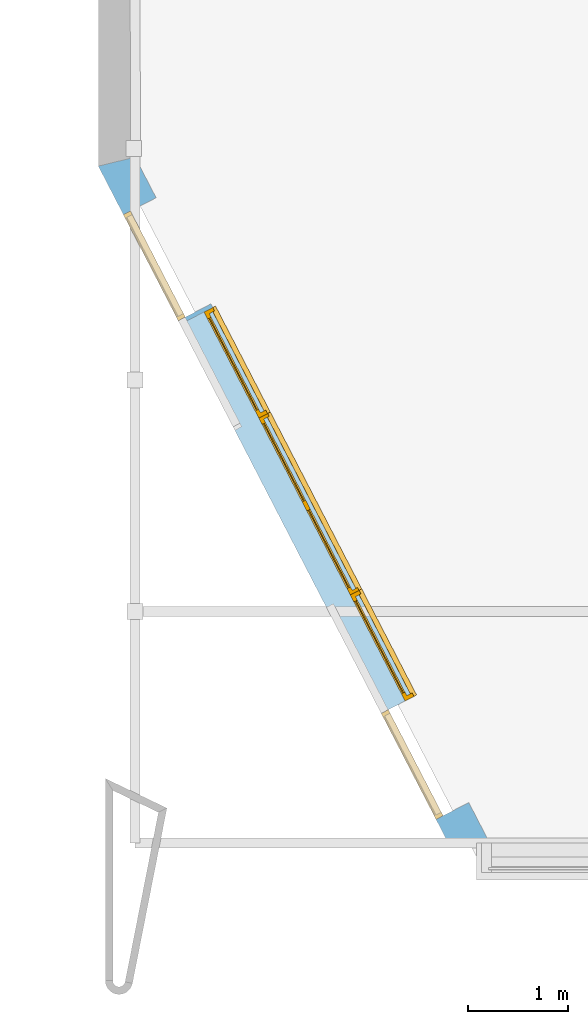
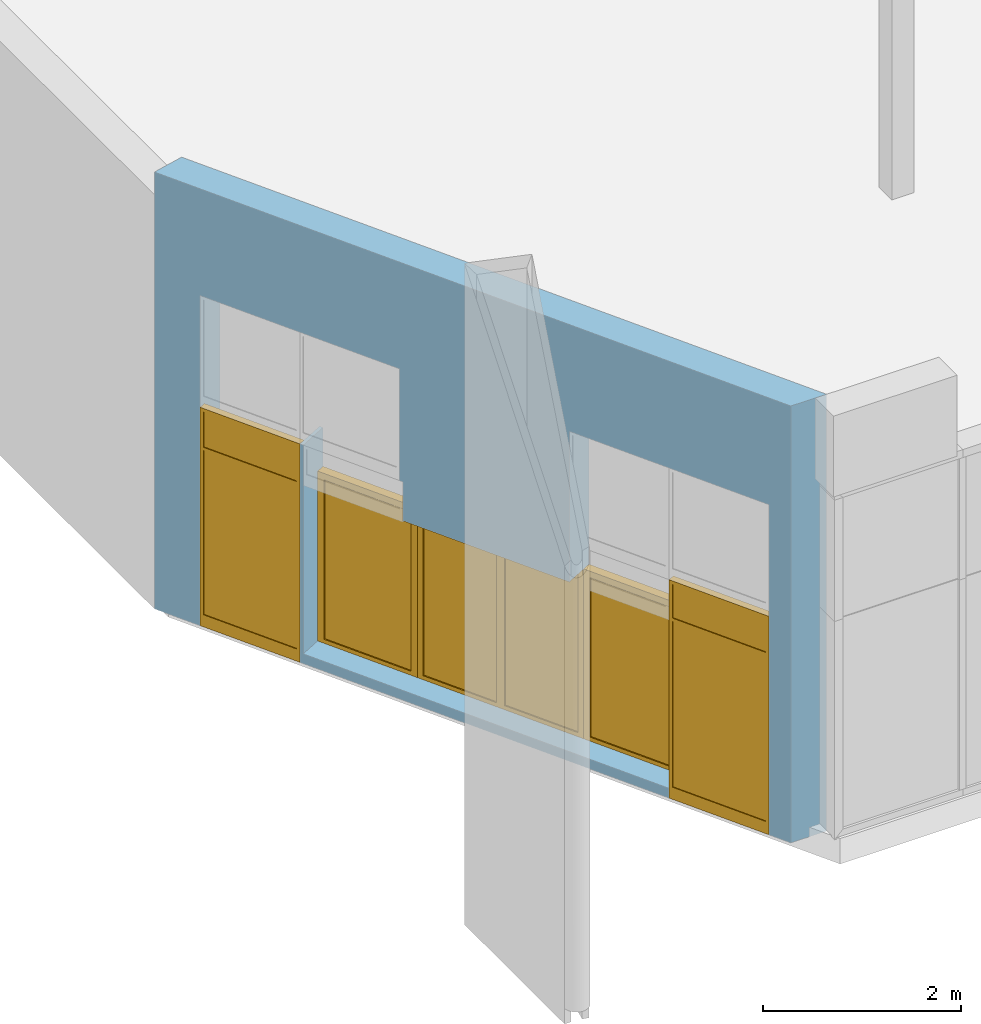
# One storey, part 31 of 40: 3 doors, 2 windows, 11 openings, plus 1 element that does not belong to this part.
"""IFC2X3 building model written with IfcOpenShell, lengths in metres."""

from ifc_helpers import new_model, entity, si_unit, converted_unit, money_unit, direction, frame, origin_with_axes, origin_2d_with_axis, place, context, subcontext, project, spatial, polyline, rectangle, outline, extrude, faceted_brep, source, transform, mapped, material, material_list, layer, layer_set, layer_usage, type_object, element, fill, save


model = new_model("IFC2X3")

# Units and contexts
model_context = context("Model", 3, precision=1e-05, world=origin_with_axes(), true_north=direction((0.0, 1.0)))
body_context = subcontext(model_context, "Body", "Model", "MODEL_VIEW")
ifc_project = project(units=[si_unit("LENGTHUNIT", "METRE"), si_unit("AREAUNIT", "SQUARE_METRE"), si_unit("VOLUMEUNIT", "CUBIC_METRE"), converted_unit("PLANEANGLEUNIT", "DEGREE", entity("IfcPlaneAngleMeasure", 0.0174532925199), si_unit("PLANEANGLEUNIT", "RADIAN"), dimensions=[0, 0, 0, 0, 0, 0, 0]), si_unit("SOLIDANGLEUNIT", "STERADIAN"), money_unit("EUR"), converted_unit("TIMEUNIT", "Year", entity("IfcTimeMeasure", 31556926.0), si_unit("TIMEUNIT", "SECOND"), dimensions=[0, 0, 0, 0, 0, 0, 0]), si_unit("MASSUNIT", "GRAM"), si_unit("THERMODYNAMICTEMPERATUREUNIT", "DEGREE_CELSIUS"), si_unit("LUMINOUSINTENSITYUNIT", "LUMEN")], contexts=[model_context])

# Site, building, storey
site_placement = place(None, origin_with_axes())
site = spatial("IfcSite", under=ifc_project, at=site_placement, Name="Undefined", CompositionType="ELEMENT")
building_placement = place(site_placement, origin_with_axes())
building = spatial("IfcBuilding", under=site, at=building_placement, Name="Undefined", CompositionType="ELEMENT")
storey_placement = place(building_placement, origin_with_axes())
storey = spatial("IfcBuildingStorey", under=building, at=storey_placement, Name="Rez de chauss\x8ee", CompositionType="ELEMENT", Elevation=0.0)

# Wall, openings, windows, doors
ifc_material_1 = material(Name="Finition ext - Cr\x8epis")
ifc_layer_1 = layer(ifc_material_1, 0.015, ventilated="UNKNOWN")
ifc_material_2 = material(Name="Isolation - Fibres de bois")
ifc_layer_2 = layer(ifc_material_2, 0.16, ventilated="UNKNOWN")
ifc_material_3 = material(Name="Struct. - B.A. banch\x8e")
ifc_layer_3 = layer(ifc_material_3, 0.18, ventilated="UNKNOWN")
ifc_material_4 = material(Name="Finition int - Enduit pl\x89tre")
ifc_layer_4 = layer(ifc_material_4, 0.015, ventilated="UNKNOWN")
ifc_layer_set = layer_set([ifc_layer_1, ifc_layer_2, ifc_layer_3, ifc_layer_4], Name="1.2-Mur ext: rev\x8et ext + isol ext + ma\x8donnerie + enduit")
ifc_layer_usage = layer_usage(ifc_layer_set, "AXIS2", "NEGATIVE", 0.0)
wall_type = type_object("IfcWallType", Name="1.2-Mur ext: rev\x8et ext + isol ext + ma\x8donnerie + enduit 370", PredefinedType="NOTDEFINED")
wall_placement = place(storey_placement, frame((3.31909931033, -0.33546816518, 0.0), z_axis=(0.0, 0.0, 1.0), x_axis=(-0.459247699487, 0.888308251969, 0.0)))
wall = element("IfcWallStandardCase", 1, at=wall_placement, inside=storey, type_object=wall_type, material=ifc_layer_usage, Name="SW - 013", context=body_context, shape_type="SweptSolid", body=[
    extrude(outline(polyline([(0.186362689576, -0.37), (7.94293225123, -0.37), (8.03291843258, 0.0), (0.377649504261, 0.0), (0.186362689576, -0.37)])), origin_with_axes(), (0.0, 0.0, 1.0), 5.4),
])
opening_1_placement = place(wall_placement, frame((6.88324395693, 0.0, 0.0), z_axis=(0.0, 0.0, 1.0), x_axis=(1.0, 0.0, 0.0)))
opening_1 = element("IfcOpeningElement", 2, at=opening_1_placement, cuts=wall, Name="WD - 003", context=body_context, shape_type="SweptSolid", body=[
    extrude(rectangle(XDim=1.2, YDim=2.7, at=origin_2d_with_axis()), frame((0.0, -0.37, 1.35), z_axis=(0.0, 1.0, 0.0), x_axis=(1.0, 0.0, 0.0)), (0.0, 0.0, 1.0), 1.11),
])
opening_2_placement = place(wall_placement, frame((5.68324395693, 0.0, 2.7), z_axis=(0.0, 0.0, 1.0), x_axis=(1.0, 0.0, 0.0)))
element("IfcOpeningElement", 3, at=opening_2_placement, cuts=wall, Name="WD - 003", context=body_context, shape_type="SweptSolid", body=[
    extrude(rectangle(XDim=1.2, YDim=1.38165160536, at=origin_2d_with_axis()), frame((0.0, -0.37, 0.690825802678), z_axis=(0.0, 1.0, 0.0), x_axis=(1.0, 0.0, 0.0)), (0.0, 0.0, 1.0), 1.11),
])
opening_3_placement = place(wall_placement, frame((6.88324395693, 0.0, 2.7), z_axis=(0.0, 0.0, 1.0), x_axis=(1.0, 0.0, 0.0)))
element("IfcOpeningElement", 4, at=opening_3_placement, cuts=wall, Name="WD - 003", context=body_context, shape_type="SweptSolid", body=[
    extrude(rectangle(XDim=1.2, YDim=1.38165160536, at=origin_2d_with_axis()), frame((0.0, -0.37, 0.690825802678), z_axis=(0.0, 1.0, 0.0), x_axis=(1.0, 0.0, 0.0)), (0.0, 0.0, 1.0), 1.11),
])
opening_4_placement = place(wall_placement, frame((1.24257787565, 0.0, 0.0), z_axis=(0.0, 0.0, 1.0), x_axis=(1.0, 0.0, 0.0)))
opening_4 = element("IfcOpeningElement", 5, at=opening_4_placement, cuts=wall, Name="WD - 003", context=body_context, shape_type="SweptSolid", body=[
    extrude(rectangle(XDim=1.2, YDim=2.7, at=origin_2d_with_axis()), frame((0.0, -0.37, 1.35), z_axis=(0.0, 1.0, 0.0), x_axis=(1.0, 0.0, 0.0)), (0.0, 0.0, 1.0), 1.11),
])
opening_5_placement = place(wall_placement, frame((1.24257787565, 0.0, 2.7), z_axis=(0.0, 0.0, 1.0), x_axis=(1.0, 0.0, 0.0)))
element("IfcOpeningElement", 6, at=opening_5_placement, cuts=wall, Name="WD - 003", context=body_context, shape_type="SweptSolid", body=[
    extrude(rectangle(XDim=1.2, YDim=1.38165160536, at=origin_2d_with_axis()), frame((0.0, -0.37, 0.690825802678), z_axis=(0.0, 1.0, 0.0), x_axis=(1.0, 0.0, 0.0)), (0.0, 0.0, 1.0), 1.11),
])
opening_6_placement = place(wall_placement, frame((2.44257787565, 0.0, 2.7), z_axis=(0.0, 0.0, 1.0), x_axis=(1.0, 0.0, 0.0)))
element("IfcOpeningElement", 7, at=opening_6_placement, cuts=wall, Name="WD - 003", context=body_context, shape_type="SweptSolid", body=[
    extrude(rectangle(XDim=1.2, YDim=1.38165160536, at=origin_2d_with_axis()), frame((0.0, -0.37, 0.690825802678), z_axis=(0.0, 1.0, 0.0), x_axis=(1.0, 0.0, 0.0)), (0.0, 0.0, 1.0), 1.11),
])
opening_7_placement = place(wall_placement, frame((5.64257787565, 0.0, 2.2), z_axis=(0.0, 0.0, 1.0), x_axis=(1.0, 0.0, 0.0)))
element("IfcOpeningElement", 8, at=opening_7_placement, cuts=wall, Name="WD - 003", context=body_context, shape_type="SweptSolid", body=[
    extrude(rectangle(XDim=1.2, YDim=0.5, at=origin_2d_with_axis()), frame((0.0, -0.37, 0.25), z_axis=(0.0, 1.0, 0.0), x_axis=(1.0, 0.0, 0.0)), (0.0, 0.0, 1.0), 1.11),
])
opening_8_placement = place(wall_placement, frame((2.44257787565, 0.0, 2.2), z_axis=(0.0, 0.0, 1.0), x_axis=(1.0, 0.0, 0.0)))
element("IfcOpeningElement", 9, at=opening_8_placement, cuts=wall, Name="WD - 003", context=body_context, shape_type="SweptSolid", body=[
    extrude(rectangle(XDim=1.2, YDim=0.5, at=origin_2d_with_axis()), frame((0.0, -0.37, 0.25), z_axis=(0.0, 1.0, 0.0), x_axis=(1.0, 0.0, 0.0)), (0.0, 0.0, 1.0), 1.11),
])
opening_9_placement = place(wall_placement, frame((5.64257787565, 0.0, 0.12), z_axis=(0.0, 0.0, 1.0), x_axis=(1.0, 0.0, 0.0)))
opening_9 = element("IfcOpeningElement", 10, at=opening_9_placement, cuts=wall, Name="DOOR", context=body_context, shape_type="SweptSolid", body=[
    extrude(rectangle(XDim=1.2, YDim=2.1, at=origin_2d_with_axis()), frame((0.0, 0.37, 1.05), z_axis=(0.0, 1.0, 0.0), x_axis=(-1.0, 0.0, 0.0)), (0.0, 0.0, -1.0), 1.11),
    extrude(rectangle(XDim=1.2, YDim=0.0260824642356, at=origin_2d_with_axis()), frame((0.0, -0.74, -0.0130412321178), z_axis=(0.0, -1.0, 0.0), x_axis=(-1.0, 0.0, 0.0)), (0.0, 0.0, -1.0), 0.391308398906),
])
opening_10_placement = place(wall_placement, frame((2.44257787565, 0.0, 0.12), z_axis=(0.0, 0.0, 1.0), x_axis=(1.0, 0.0, 0.0)))
opening_10 = element("IfcOpeningElement", 11, at=opening_10_placement, cuts=wall, Name="DOOR", context=body_context, shape_type="SweptSolid", body=[
    extrude(rectangle(XDim=1.2, YDim=2.1, at=origin_2d_with_axis()), frame((0.0, 0.37, 1.05), z_axis=(0.0, -1.0, 0.0), x_axis=(1.0, 0.0, 0.0)), (0.0, 0.0, 1.0), 1.11),
    extrude(rectangle(XDim=1.2, YDim=0.0260824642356, at=origin_2d_with_axis()), frame((0.0, -0.74, -0.0130412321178), z_axis=(0.0, 1.0, 0.0), x_axis=(1.0, 0.0, 0.0)), (0.0, 0.0, 1.0), 0.391308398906),
])
opening_11_placement = place(wall_placement, frame((4.04257787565, 0.0, 0.12), z_axis=(0.0, 0.0, 1.0), x_axis=(1.0, 0.0, 0.0)))
opening_11 = element("IfcOpeningElement", 12, at=opening_11_placement, cuts=wall, Name="DOOR", context=body_context, shape_type="SweptSolid", body=[
    extrude(rectangle(XDim=2.0, YDim=2.1, at=origin_2d_with_axis()), frame((0.0, 0.37, 1.05), z_axis=(0.0, 1.0, 0.0), x_axis=(-1.0, 0.0, 0.0)), (0.0, 0.0, -1.0), 1.11),
    extrude(rectangle(XDim=2.0, YDim=0.0260824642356, at=origin_2d_with_axis()), frame((0.0, -0.74, -0.0130412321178), z_axis=(0.0, -1.0, 0.0), x_axis=(-1.0, 0.0, 0.0)), (0.0, 0.0, -1.0), 0.391308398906),
])
ifc_material_5 = material(Name="Background Fill-International")
ifc_material_6 = material(Name="05 | Aluminum")
ifc_material_list_1 = material_list([ifc_material_5, ifc_material_6, ifc_material_5, ifc_material_5])
window_style = type_object("IfcWindowStyle", Name="F devanture 4 15", ConstructionType="NOTDEFINED", OperationType="USERDEFINED", ParameterTakesPrecedence=False, Sizeable=False)
shared_shape_1 = source(origin_with_axes(), body_context, "Body", "Brep", [
    faceted_brep([(-0.6, 0.0, 2.7), (-0.6, 0.0, 0.0), (-0.6, -0.08, 0.0), (-0.6, -0.08, 2.7), (-0.56, 0.0, 2.66), (-0.56, 0.0, 2.22), (-0.56, 0.0, 2.18), (-0.56, 0.0, 0.15), (-0.56, -0.08, 0.15), (-0.56, -0.08, 2.18), (-0.56, -0.08, 2.22), (-0.56, -0.08, 2.66)], [[[0, 1, 2, 3]], [[0, 4, 5, 6, 7, 1]], [[1, 7, 8, 2]], [[3, 2, 8, 9, 10, 11]], [[4, 0, 3, 11]], [[5, 4, 11, 10]], [[6, 5, 10, 9]], [[7, 6, 9, 8]]]),
    faceted_brep([(0.6, 0.0, 0.0), (0.6, 0.0, 2.7), (0.6, -0.08, 2.7), (0.6, -0.08, 0.0), (0.56, 0.0, 0.15), (0.56, 0.0, 2.18), (0.56, 0.0, 2.22), (0.56, 0.0, 2.66), (0.56, -0.08, 2.66), (0.56, -0.08, 2.22), (0.56, -0.08, 2.18), (0.56, -0.08, 0.15)], [[[0, 1, 2, 3]], [[0, 4, 5, 6, 7, 1]], [[1, 7, 8, 2]], [[3, 2, 8, 9, 10, 11]], [[4, 0, 3, 11]], [[5, 4, 11, 10]], [[6, 5, 10, 9]], [[7, 6, 9, 8]]]),
    faceted_brep([(0.6, 0.0, 2.7), (-0.6, 0.0, 2.7), (-0.6, -0.08, 2.7), (0.6, -0.08, 2.7), (0.56, 0.0, 2.66), (-0.56, 0.0, 2.66), (-0.56, -0.08, 2.66), (0.56, -0.08, 2.66)], [[[0, 1, 2, 3]], [[0, 4, 5, 1]], [[1, 5, 6, 2]], [[3, 2, 6, 7]], [[4, 0, 3, 7]], [[5, 4, 7, 6]]]),
    faceted_brep([(0.6, 0.0, 0.0), (0.56, 0.0, 0.15), (0.56, -0.08, 0.15), (0.6, -0.08, 0.0), (-0.6, 0.0, 0.0), (-0.56, 0.0, 0.15), (-0.56, -0.08, 0.15), (-0.6, -0.08, 0.0)], [[[0, 1, 2, 3]], [[0, 4, 5, 1]], [[1, 5, 6, 2]], [[3, 2, 6, 7]], [[4, 0, 3, 7]], [[5, 4, 7, 6]]]),
    faceted_brep([(-0.56, 0.0, 2.22), (-0.56, 0.0, 2.18), (-0.56, -0.08, 2.18), (-0.56, -0.08, 2.22), (0.56, 0.0, 2.22), (0.56, 0.0, 2.18), (0.56, -0.08, 2.18), (0.56, -0.08, 2.22)], [[[0, 1, 2, 3]], [[0, 4, 5, 1]], [[1, 5, 6, 2]], [[3, 2, 6, 7]], [[4, 0, 3, 7]], [[5, 4, 7, 6]]]),
    faceted_brep([(-0.56, -0.01, 0.15), (0.56, -0.01, 0.15), (0.56, -0.02, 0.15), (-0.56, -0.02, 0.15), (-0.56, -0.01, 2.18), (0.56, -0.01, 2.18), (0.56, -0.02, 2.18), (-0.56, -0.02, 2.18)], [[[0, 1, 2, 3]], [[0, 4, 5, 1]], [[1, 5, 6, 2]], [[3, 2, 6, 7]], [[4, 0, 3, 7]], [[5, 4, 7, 6]]]),
    faceted_brep([(-0.56, -0.01, 2.22), (0.56, -0.01, 2.22), (0.56, -0.02, 2.22), (-0.56, -0.02, 2.22), (-0.56, -0.01, 2.66), (0.56, -0.01, 2.66), (0.56, -0.02, 2.66), (-0.56, -0.02, 2.66)], [[[0, 1, 2, 3]], [[0, 4, 5, 1]], [[1, 5, 6, 2]], [[3, 2, 6, 7]], [[4, 0, 3, 7]], [[5, 4, 7, 6]]]),
])
window_1_placement = place(opening_1_placement, frame((-0.6, 0.0, 0.0), z_axis=(0.0, 0.0, 1.0), x_axis=(1.0, 0.0, 0.0)))
window_1 = element("IfcWindow", 13, at=window_1_placement, inside=storey, type_object=window_style, material=ifc_material_list_1, Name="WD - 003", OverallHeight=2.7, OverallWidth=1.2, context=body_context, shape_type="MappedRepresentation", body=[
    mapped(shared_shape_1, transform((0.6, 0.0, 0.0))),
])
fill(opening_1, window_1)
shared_shape_2 = source(origin_with_axes(), body_context, "Body", "Brep", [
    faceted_brep([(-0.6, 0.0, 2.7), (-0.6, 0.0, 0.0), (-0.6, -0.08, 0.0), (-0.6, -0.08, 2.7), (-0.56, 0.0, 2.66), (-0.56, 0.0, 2.24), (-0.56, 0.0, 2.2), (-0.56, 0.0, 0.15), (-0.56, -0.08, 0.15), (-0.56, -0.08, 2.2), (-0.56, -0.08, 2.24), (-0.56, -0.08, 2.66)], [[[0, 1, 2, 3]], [[0, 4, 5, 6, 7, 1]], [[1, 7, 8, 2]], [[3, 2, 8, 9, 10, 11]], [[4, 0, 3, 11]], [[5, 4, 11, 10]], [[6, 5, 10, 9]], [[7, 6, 9, 8]]]),
    faceted_brep([(0.6, 0.0, 0.0), (0.6, 0.0, 2.7), (0.6, -0.08, 2.7), (0.6, -0.08, 0.0), (0.56, 0.0, 0.15), (0.56, 0.0, 2.2), (0.56, 0.0, 2.24), (0.56, 0.0, 2.66), (0.56, -0.08, 2.66), (0.56, -0.08, 2.24), (0.56, -0.08, 2.2), (0.56, -0.08, 0.15)], [[[0, 1, 2, 3]], [[0, 4, 5, 6, 7, 1]], [[1, 7, 8, 2]], [[3, 2, 8, 9, 10, 11]], [[4, 0, 3, 11]], [[5, 4, 11, 10]], [[6, 5, 10, 9]], [[7, 6, 9, 8]]]),
    faceted_brep([(0.6, 0.0, 2.7), (-0.6, 0.0, 2.7), (-0.6, -0.08, 2.7), (0.6, -0.08, 2.7), (0.56, 0.0, 2.66), (-0.56, 0.0, 2.66), (-0.56, -0.08, 2.66), (0.56, -0.08, 2.66)], [[[0, 1, 2, 3]], [[0, 4, 5, 1]], [[1, 5, 6, 2]], [[3, 2, 6, 7]], [[4, 0, 3, 7]], [[5, 4, 7, 6]]]),
    faceted_brep([(0.6, 0.0, 0.0), (0.56, 0.0, 0.15), (0.56, -0.08, 0.15), (0.6, -0.08, 0.0), (-0.6, 0.0, 0.0), (-0.56, 0.0, 0.15), (-0.56, -0.08, 0.15), (-0.6, -0.08, 0.0)], [[[0, 1, 2, 3]], [[0, 4, 5, 1]], [[1, 5, 6, 2]], [[3, 2, 6, 7]], [[4, 0, 3, 7]], [[5, 4, 7, 6]]]),
    faceted_brep([(-0.56, 0.0, 2.24), (-0.56, 0.0, 2.2), (-0.56, -0.08, 2.2), (-0.56, -0.08, 2.24), (0.56, 0.0, 2.24), (0.56, 0.0, 2.2), (0.56, -0.08, 2.2), (0.56, -0.08, 2.24)], [[[0, 1, 2, 3]], [[0, 4, 5, 1]], [[1, 5, 6, 2]], [[3, 2, 6, 7]], [[4, 0, 3, 7]], [[5, 4, 7, 6]]]),
    faceted_brep([(-0.56, -0.01, 0.15), (0.56, -0.01, 0.15), (0.56, -0.02, 0.15), (-0.56, -0.02, 0.15), (-0.56, -0.01, 2.2), (0.56, -0.01, 2.2), (0.56, -0.02, 2.2), (-0.56, -0.02, 2.2)], [[[0, 1, 2, 3]], [[0, 4, 5, 1]], [[1, 5, 6, 2]], [[3, 2, 6, 7]], [[4, 0, 3, 7]], [[5, 4, 7, 6]]]),
    faceted_brep([(-0.56, -0.01, 2.24), (0.56, -0.01, 2.24), (0.56, -0.02, 2.24), (-0.56, -0.02, 2.24), (-0.56, -0.01, 2.66), (0.56, -0.01, 2.66), (0.56, -0.02, 2.66), (-0.56, -0.02, 2.66)], [[[0, 1, 2, 3]], [[0, 4, 5, 1]], [[1, 5, 6, 2]], [[3, 2, 6, 7]], [[4, 0, 3, 7]], [[5, 4, 7, 6]]]),
])
window_2_placement = place(opening_4_placement, frame((-0.6, 0.0, 0.0), z_axis=(0.0, 0.0, 1.0), x_axis=(1.0, 0.0, 0.0)))
window_2 = element("IfcWindow", 14, at=window_2_placement, inside=storey, type_object=window_style, material=ifc_material_list_1, Name="WD - 003", OverallHeight=2.7, OverallWidth=1.2, context=body_context, shape_type="MappedRepresentation", body=[
    mapped(shared_shape_2, transform((0.6, 0.0, 0.0))),
])
fill(opening_4, window_2)
ifc_material_7 = material(Name="Air Space")
ifc_material_8 = material(Name="01 | Hatch-Dashed")
ifc_material_9 = material(Name="Foreground Fill-International")
ifc_material_10 = material(Name="07 | Insulation Rigid")
ifc_material_list_2 = material_list([ifc_material_5, ifc_material_7, ifc_material_8, ifc_material_9, ifc_material_5, ifc_material_5, ifc_material_5, ifc_material_5, ifc_material_10, ifc_material_5, ifc_material_5, ifc_material_5, ifc_material_5, ifc_material_7, ifc_material_5, ifc_material_5, ifc_material_5])
door_style_1 = type_object("IfcDoorStyle", Name="Porte d'entr\x8ee 18", ConstructionType="NOTDEFINED", OperationType="SINGLE_SWING_LEFT", ParameterTakesPrecedence=False, Sizeable=False)
shared_shape_3 = source(origin_with_axes(), body_context, "Body", "Brep", [
    faceted_brep([(0.6, -0.08, 0.0), (-0.6, -0.08, 0.0), (-0.6, -0.131308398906, -0.00268895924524), (0.6, -0.131308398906, -0.00268895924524), (0.6, -0.0786916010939, -0.0249657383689), (-0.6, -0.0786916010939, -0.0249657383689), (-0.6, -0.13, -0.0276546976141), (0.6, -0.13, -0.0276546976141)], [[[0, 1, 2, 3]], [[4, 5, 1, 0]], [[1, 5, 6, 2]], [[3, 2, 6, 7]], [[0, 3, 7, 4]], [[7, 6, 5, 4]]]),
    faceted_brep([(0.56, -0.04, 0.0), (0.56, -0.1, 0.0), (0.56, -0.1, 2.06), (0.56, -0.04, 2.06), (0.572, -0.04, 0.0), (0.572, 0.0, 0.0), (0.6, 0.0, 0.0), (0.6, -0.1, 0.0), (0.6, -0.1, 2.06), (0.572, -0.04, 2.06), (0.6, 0.0, 2.06), (0.572, 0.0, 2.06)], [[[0, 1, 2, 3]], [[4, 5, 6, 7, 1, 0]], [[8, 2, 1, 7]], [[9, 3, 2, 8, 10, 11]], [[9, 4, 0, 3]], [[11, 5, 4, 9]], [[11, 10, 6, 5]], [[8, 7, 6, 10]]]),
    faceted_brep([(-0.572, -0.04, 2.06), (-0.572, 0.0, 2.06), (-0.6, 0.0, 2.06), (-0.6, -0.1, 2.06), (-0.56, -0.1, 2.06), (-0.56, -0.04, 2.06), (-0.572, -0.04, 0.0), (-0.572, 0.0, 0.0), (-0.6, 0.0, 0.0), (-0.6, -0.1, 0.0), (-0.56, -0.1, 0.0), (-0.56, -0.04, 0.0)], [[[0, 1, 2, 3, 4, 5]], [[0, 6, 7, 1]], [[7, 8, 2, 1]], [[9, 3, 2, 8]], [[10, 4, 3, 9]], [[5, 4, 10, 11]], [[5, 11, 6, 0]], [[6, 11, 10, 9, 8, 7]]]),
    faceted_brep([(0.572, 0.0, 2.072), (-0.572, 0.0, 2.072), (-0.572, 0.0, 2.06), (-0.6, 0.0, 2.06), (-0.6, 0.0, 2.1), (0.6, 0.0, 2.1), (0.6, 0.0, 2.06), (0.572, 0.0, 2.06), (0.572, -0.04, 2.072), (-0.572, -0.04, 2.072), (-0.572, -0.04, 2.06), (-0.56, -0.04, 2.06), (-0.56, -0.1, 2.06), (-0.6, -0.1, 2.06), (-0.6, -0.1, 2.1), (0.6, -0.1, 2.1), (0.6, -0.1, 2.06), (0.572, -0.04, 2.06), (0.56, -0.1, 2.06), (0.56, -0.04, 2.06)], [[[0, 1, 2, 3, 4, 5, 6, 7]], [[0, 8, 9, 1]], [[1, 9, 10, 2]], [[10, 11, 12, 13, 3, 2]], [[13, 14, 4, 3]], [[14, 15, 5, 4]], [[15, 16, 6, 5]], [[17, 7, 6, 16, 18, 19]], [[7, 17, 8, 0]], [[10, 9, 8, 17, 19, 11]], [[19, 18, 12, 11]], [[14, 13, 12, 18, 16, 15]]]),
    faceted_brep([(-0.572, 0.0, 0.0), (0.572, 0.0, 0.0), (0.572, -0.04, 0.0), (-0.572, -0.04, 0.0), (-0.572, 0.0, 2.072), (0.572, 0.0, 2.072), (0.522, 0.0, 0.05), (0.522, 0.0, 2.022), (-0.522, 0.0, 2.022), (-0.522, 0.0, 0.05), (0.572, -0.04, 2.072), (-0.572, -0.04, 2.072), (0.522, -0.04, 0.05), (-0.522, -0.04, 0.05), (-0.522, -0.04, 2.022), (0.522, -0.04, 2.022)], [[[0, 1, 2, 3]], [[0, 4, 5, 1], [6, 7, 8, 9]], [[1, 5, 10, 2]], [[3, 2, 10, 11], [12, 13, 14, 15]], [[4, 0, 3, 11]], [[5, 4, 11, 10]], [[7, 6, 12, 15]], [[8, 7, 15, 14]], [[9, 8, 14, 13]], [[6, 9, 13, 12]]]),
    faceted_brep([(0.522, -0.015, 0.05), (0.522, -0.015, 2.022), (0.522, -0.025, 2.022), (0.522, -0.025, 0.05), (-0.522, -0.015, 0.05), (-0.522, -0.015, 2.022), (-0.522, -0.025, 2.022), (-0.522, -0.025, 0.05)], [[[0, 1, 2, 3]], [[0, 4, 5, 1]], [[1, 5, 6, 2]], [[3, 2, 6, 7]], [[4, 0, 3, 7]], [[5, 4, 7, 6]]]),
])
door_1_placement = place(opening_9_placement, frame((-0.6, 0.0, 0.0), z_axis=(0.0, 0.0, 1.0), x_axis=(1.0, 0.0, 0.0)))
door_1 = element("IfcDoor", 15, at=door_1_placement, inside=storey, type_object=door_style_1, material=ifc_material_list_2, Name="DOOR", ObjectType="DOOR", OverallHeight=2.1, OverallWidth=1.2, context=body_context, shape_type="MappedRepresentation", body=[
    mapped(shared_shape_3, transform((0.6, -0.27, 0.0))),
])
fill(opening_9, door_1)
door_style_2 = type_object("IfcDoorStyle", Name="Porte d'entr\x8ee 18", ConstructionType="NOTDEFINED", OperationType="SINGLE_SWING_RIGHT", ParameterTakesPrecedence=False, Sizeable=False)
shared_shape_4 = source(origin_with_axes(), body_context, "Body", "Brep", [
    faceted_brep([(-0.6, -0.08, 0.0), (-0.6, -0.131308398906, -0.00268895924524), (0.6, -0.131308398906, -0.00268895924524), (0.6, -0.08, 0.0), (-0.6, -0.0786916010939, -0.0249657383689), (-0.6, -0.13, -0.0276546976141), (0.6, -0.13, -0.0276546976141), (0.6, -0.0786916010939, -0.0249657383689)], [[[0, 1, 2, 3]], [[0, 4, 5, 1]], [[1, 5, 6, 2]], [[3, 2, 6, 7]], [[4, 0, 3, 7]], [[5, 4, 7, 6]]]),
    faceted_brep([(-0.56, -0.04, 0.0), (-0.56, -0.04, 2.06), (-0.56, -0.1, 2.06), (-0.56, -0.1, 0.0), (-0.572, -0.04, 2.06), (-0.572, -0.04, 0.0), (-0.572, 0.0, 2.06), (-0.6, 0.0, 2.06), (-0.6, -0.1, 2.06), (-0.6, -0.1, 0.0), (-0.6, 0.0, 0.0), (-0.572, 0.0, 0.0)], [[[0, 1, 2, 3]], [[4, 1, 0, 5]], [[4, 6, 7, 8, 2, 1]], [[8, 9, 3, 2]], [[5, 0, 3, 9, 10, 11]], [[6, 4, 5, 11]], [[6, 11, 10, 7]], [[8, 7, 10, 9]]]),
    faceted_brep([(0.572, -0.04, 2.06), (0.56, -0.04, 2.06), (0.56, -0.1, 2.06), (0.6, -0.1, 2.06), (0.6, 0.0, 2.06), (0.572, 0.0, 2.06), (0.572, -0.04, 0.0), (0.56, -0.04, 0.0), (0.56, -0.1, 0.0), (0.6, -0.1, 0.0), (0.6, 0.0, 0.0), (0.572, 0.0, 0.0)], [[[0, 1, 2, 3, 4, 5]], [[1, 0, 6, 7]], [[1, 7, 8, 2]], [[8, 9, 3, 2]], [[9, 10, 4, 3]], [[11, 5, 4, 10]], [[0, 5, 11, 6]], [[6, 11, 10, 9, 8, 7]]]),
    faceted_brep([(-0.572, 0.0, 2.072), (-0.572, 0.0, 2.06), (-0.6, 0.0, 2.06), (-0.6, 0.0, 2.1), (0.6, 0.0, 2.1), (0.6, 0.0, 2.06), (0.572, 0.0, 2.06), (0.572, 0.0, 2.072), (-0.572, -0.04, 2.072), (-0.572, -0.04, 2.06), (-0.56, -0.04, 2.06), (-0.56, -0.1, 2.06), (-0.6, -0.1, 2.06), (-0.6, -0.1, 2.1), (0.6, -0.1, 2.1), (0.6, -0.1, 2.06), (0.572, -0.04, 2.06), (0.56, -0.1, 2.06), (0.56, -0.04, 2.06), (0.572, -0.04, 2.072)], [[[0, 1, 2, 3, 4, 5, 6, 7]], [[1, 0, 8, 9]], [[9, 10, 11, 12, 2, 1]], [[13, 3, 2, 12]], [[14, 4, 3, 13]], [[15, 5, 4, 14]], [[16, 6, 5, 15, 17, 18]], [[7, 6, 16, 19]], [[0, 7, 19, 8]], [[16, 18, 10, 9, 8, 19]], [[10, 18, 17, 11]], [[14, 13, 12, 11, 17, 15]]]),
    faceted_brep([(0.572, 0.0, 0.0), (0.572, -0.04, 0.0), (-0.572, -0.04, 0.0), (-0.572, 0.0, 0.0), (0.572, 0.0, 2.072), (0.572, -0.04, 2.072), (-0.572, -0.04, 2.072), (-0.522, -0.04, 0.05), (-0.522, -0.04, 2.022), (0.522, -0.04, 2.022), (0.522, -0.04, 0.05), (-0.572, 0.0, 2.072), (-0.522, 0.0, 0.05), (0.522, 0.0, 0.05), (0.522, 0.0, 2.022), (-0.522, 0.0, 2.022)], [[[0, 1, 2, 3]], [[4, 5, 1, 0]], [[1, 5, 6, 2], [7, 8, 9, 10]], [[3, 2, 6, 11]], [[0, 3, 11, 4], [12, 13, 14, 15]], [[11, 6, 5, 4]], [[15, 8, 7, 12]], [[14, 9, 8, 15]], [[13, 10, 9, 14]], [[12, 7, 10, 13]]]),
    faceted_brep([(-0.522, -0.015, 0.05), (-0.522, -0.025, 0.05), (-0.522, -0.025, 2.022), (-0.522, -0.015, 2.022), (0.522, -0.015, 0.05), (0.522, -0.025, 0.05), (0.522, -0.025, 2.022), (0.522, -0.015, 2.022)], [[[0, 1, 2, 3]], [[4, 5, 1, 0]], [[1, 5, 6, 2]], [[3, 2, 6, 7]], [[0, 3, 7, 4]], [[7, 6, 5, 4]]]),
])
door_2_placement = place(opening_10_placement, frame((-0.6, 0.0, 0.0), z_axis=(0.0, 0.0, 1.0), x_axis=(1.0, 0.0, 0.0)))
door_2 = element("IfcDoor", 16, at=door_2_placement, inside=storey, type_object=door_style_2, material=ifc_material_list_2, Name="DOOR", ObjectType="DOOR", OverallHeight=2.1, OverallWidth=1.2, context=body_context, shape_type="MappedRepresentation", body=[
    mapped(shared_shape_4, transform((0.6, -0.27, 0.0))),
])
fill(opening_10, door_2)
door_style_3 = type_object("IfcDoorStyle", Name="Double porte d'entr\x8ee 18", ConstructionType="NOTDEFINED", OperationType="DOUBLE_DOOR_SINGLE_SWING", ParameterTakesPrecedence=False, Sizeable=False)
shared_shape_5 = source(origin_with_axes(), body_context, "Body", "Brep", [
    faceted_brep([(1.0, -0.08, 0.0), (-1.0, -0.08, 0.0), (-1.0, -0.131308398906, -0.00268895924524), (1.0, -0.131308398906, -0.00268895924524), (1.0, -0.0786916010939, -0.0249657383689), (-1.0, -0.0786916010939, -0.0249657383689), (-1.0, -0.13, -0.0276546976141), (1.0, -0.13, -0.0276546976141)], [[[0, 1, 2, 3]], [[4, 5, 1, 0]], [[1, 5, 6, 2]], [[3, 2, 6, 7]], [[0, 3, 7, 4]], [[7, 6, 5, 4]]]),
    faceted_brep([(0.968, -0.04, 0.0), (0.968, -0.1, 0.0), (0.968, -0.1, 2.068), (0.968, -0.04, 2.068), (0.98, -0.04, 0.0), (0.98, 0.0, 0.0), (1.0, 0.0, 0.0), (1.0, -0.1, 0.0), (1.0, -0.1, 2.068), (0.98, -0.04, 2.068), (1.0, 0.0, 2.068), (0.98, 0.0, 2.068)], [[[0, 1, 2, 3]], [[4, 5, 6, 7, 1, 0]], [[8, 2, 1, 7]], [[9, 3, 2, 8, 10, 11]], [[9, 4, 0, 3]], [[11, 5, 4, 9]], [[11, 10, 6, 5]], [[8, 7, 6, 10]]]),
    faceted_brep([(-0.98, -0.04, 2.068), (-0.98, 0.0, 2.068), (-1.0, 0.0, 2.068), (-1.0, -0.1, 2.068), (-0.968, -0.1, 2.068), (-0.968, -0.04, 2.068), (-0.98, -0.04, 0.0), (-0.98, 0.0, 0.0), (-1.0, 0.0, 0.0), (-1.0, -0.1, 0.0), (-0.968, -0.1, 0.0), (-0.968, -0.04, 0.0)], [[[0, 1, 2, 3, 4, 5]], [[0, 6, 7, 1]], [[7, 8, 2, 1]], [[9, 3, 2, 8]], [[10, 4, 3, 9]], [[5, 4, 10, 11]], [[5, 11, 6, 0]], [[6, 11, 10, 9, 8, 7]]]),
    faceted_brep([(0.98, 0.0, 2.08), (-0.98, 0.0, 2.08), (-0.98, 0.0, 2.068), (-1.0, 0.0, 2.068), (-1.0, 0.0, 2.1), (1.0, 0.0, 2.1), (1.0, 0.0, 2.068), (0.98, 0.0, 2.068), (0.98, -0.04, 2.08), (-0.98, -0.04, 2.08), (-0.98, -0.04, 2.068), (-0.968, -0.04, 2.068), (-0.968, -0.1, 2.068), (-1.0, -0.1, 2.068), (-1.0, -0.1, 2.1), (1.0, -0.1, 2.1), (1.0, -0.1, 2.068), (0.98, -0.04, 2.068), (0.968, -0.1, 2.068), (0.968, -0.04, 2.068)], [[[0, 1, 2, 3, 4, 5, 6, 7]], [[0, 8, 9, 1]], [[1, 9, 10, 2]], [[10, 11, 12, 13, 3, 2]], [[13, 14, 4, 3]], [[14, 15, 5, 4]], [[15, 16, 6, 5]], [[17, 7, 6, 16, 18, 19]], [[7, 17, 8, 0]], [[10, 9, 8, 17, 19, 11]], [[19, 18, 12, 11]], [[14, 13, 12, 18, 16, 15]]]),
    faceted_brep([(-0.98, 0.0, 0.0), (0.0, 0.0, 0.0), (0.0, -0.04, 0.0), (-0.98, -0.04, 0.0), (-0.98, 0.0, 2.08), (0.0, 0.0, 2.08), (-0.05, 0.0, 0.05), (-0.05, 0.0, 2.03), (-0.93, 0.0, 2.03), (-0.93, 0.0, 0.05), (0.0, -0.04, 2.08), (-0.98, -0.04, 2.08), (-0.05, -0.04, 0.05), (-0.93, -0.04, 0.05), (-0.93, -0.04, 2.03), (-0.05, -0.04, 2.03)], [[[0, 1, 2, 3]], [[0, 4, 5, 1], [6, 7, 8, 9]], [[1, 5, 10, 2]], [[3, 2, 10, 11], [12, 13, 14, 15]], [[4, 0, 3, 11]], [[5, 4, 11, 10]], [[7, 6, 12, 15]], [[8, 7, 15, 14]], [[9, 8, 14, 13]], [[6, 9, 13, 12]]]),
    faceted_brep([(-0.05, -0.015, 0.05), (-0.05, -0.015, 2.03), (-0.05, -0.025, 2.03), (-0.05, -0.025, 0.05), (-0.93, -0.015, 0.05), (-0.93, -0.015, 2.03), (-0.93, -0.025, 2.03), (-0.93, -0.025, 0.05)], [[[0, 1, 2, 3]], [[0, 4, 5, 1]], [[1, 5, 6, 2]], [[3, 2, 6, 7]], [[4, 0, 3, 7]], [[5, 4, 7, 6]]]),
    faceted_brep([(0.98, 0.0, 0.0), (0.98, -0.04, 0.0), (0.0, -0.04, 0.0), (0.0, 0.0, 0.0), (0.98, 0.0, 2.08), (0.98, -0.04, 2.08), (0.0, -0.04, 2.08), (0.05, -0.04, 0.05), (0.05, -0.04, 2.03), (0.93, -0.04, 2.03), (0.93, -0.04, 0.05), (0.0, 0.0, 2.08), (0.05, 0.0, 0.05), (0.93, 0.0, 0.05), (0.93, 0.0, 2.03), (0.05, 0.0, 2.03)], [[[0, 1, 2, 3]], [[4, 5, 1, 0]], [[1, 5, 6, 2], [7, 8, 9, 10]], [[3, 2, 6, 11]], [[0, 3, 11, 4], [12, 13, 14, 15]], [[11, 6, 5, 4]], [[15, 8, 7, 12]], [[14, 9, 8, 15]], [[13, 10, 9, 14]], [[12, 7, 10, 13]]]),
    faceted_brep([(0.05, -0.015, 0.05), (0.05, -0.025, 0.05), (0.05, -0.025, 2.03), (0.05, -0.015, 2.03), (0.93, -0.015, 0.05), (0.93, -0.025, 0.05), (0.93, -0.025, 2.03), (0.93, -0.015, 2.03)], [[[0, 1, 2, 3]], [[4, 5, 1, 0]], [[1, 5, 6, 2]], [[3, 2, 6, 7]], [[0, 3, 7, 4]], [[7, 6, 5, 4]]]),
])
door_3_placement = place(opening_11_placement, frame((-1.0, 0.0, 0.0), z_axis=(0.0, 0.0, 1.0), x_axis=(1.0, 0.0, 0.0)))
door_3 = element("IfcDoor", 17, at=door_3_placement, inside=storey, type_object=door_style_3, material=ifc_material_list_2, Name="DOOR", ObjectType="DOOR", OverallHeight=2.1, OverallWidth=2.0, context=body_context, shape_type="MappedRepresentation", body=[
    mapped(shared_shape_5, transform((1.0, -0.27, 0.0))),
])
fill(opening_11, door_3)

save(model, "model.ifc")
